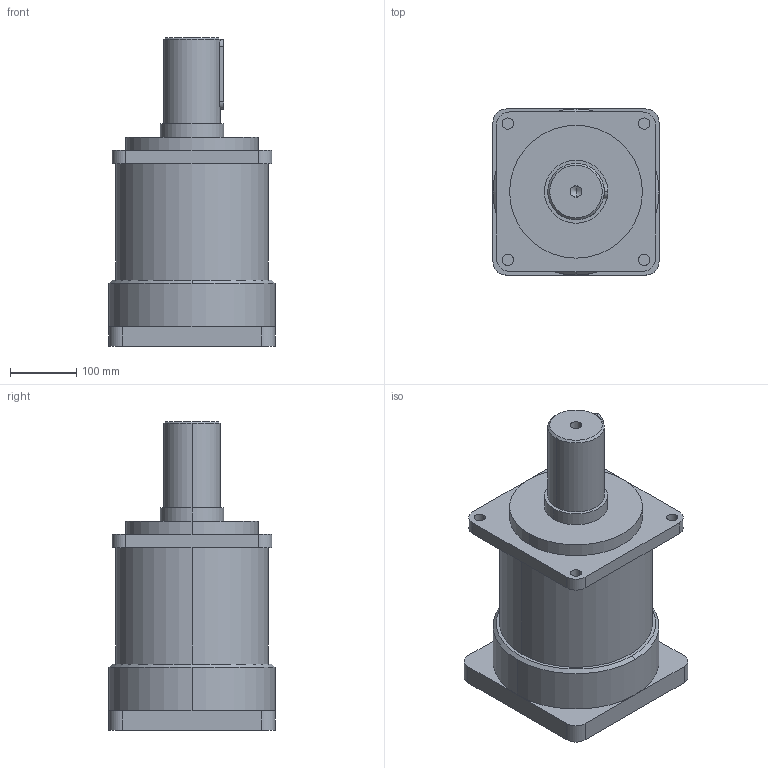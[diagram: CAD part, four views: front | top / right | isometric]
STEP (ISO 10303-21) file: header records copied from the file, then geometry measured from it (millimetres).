
FILE_DESCRIPTION (( 'STEP AP214' ), '1' );
FILE_NAME ('VRS-240-L1.STEP', '2019-08-31T08:09:21', ( '微软用户' ), ( '微软中国' ), 'SwSTEP 2.0', 'SolidWorks 2014', '' );
FILE_SCHEMA (( 'AUTOMOTIVE_DESIGN' ));
Length unit declared in the file: millimetre
Products named in the file (2): VRS-240-L1
Bounding box: 250 x 250 x 465 mm (x, y, z)
Volume: 14605531.9 mm3; surface area: 461439.3 mm2
Topology: 1 solids, 1 shells, 706 faces, 2016 edges, 1333 vertices
Faces by surface type: plane 589, bspline 60, cylinder 43, cone 14
Entity records: 29867 total; most frequent: CARTESIAN_POINT 4927, ORIENTED_EDGE 4012, DIRECTION 3271, EDGE_CURVE 2006, LINE 1789, VECTOR 1789, VERTEX_POINT 1333, EDGE_LOOP 745
